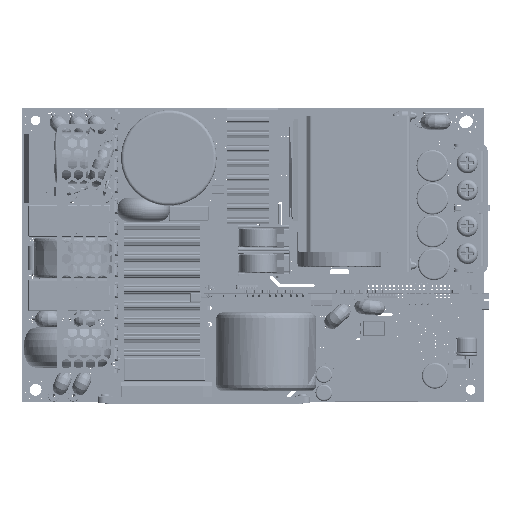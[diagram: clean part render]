
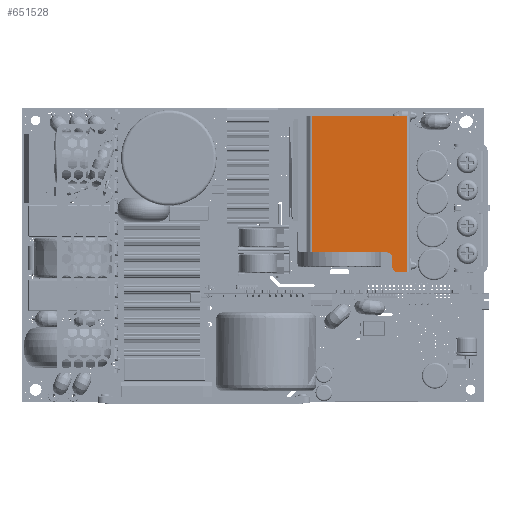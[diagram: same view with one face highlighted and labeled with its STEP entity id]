
A CAD part, top view. The second image highlights one B-rep face of the part: STEP entity #651528.
In plain terms, the highlighted planar face has unit normal (0, 0, 1).
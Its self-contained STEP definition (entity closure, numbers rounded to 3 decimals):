
#599080=DIRECTION('',(1.,0.,0.));
#599081=VECTOR('',#599080,24.886);
#599082=CARTESIAN_POINT('',(95.514,94.043,33.64));
#599083=LINE('',#599082,#599081);
#599087=DIRECTION('',(-1.,0.,0.));
#599088=VECTOR('',#599087,1.7);
#599089=CARTESIAN_POINT('',(122.1,94.043,33.64));
#599090=LINE('',#599089,#599088);
#599094=DIRECTION('',(-1.,0.,0.));
#599095=VECTOR('',#599094,4.8);
#599096=CARTESIAN_POINT('',(126.9,94.043,33.64));
#599097=LINE('',#599096,#599095);
#599101=DIRECTION('',(0.,-1.,0.));
#599102=VECTOR('',#599101,51.4);
#599103=CARTESIAN_POINT('',(126.9,94.043,33.64));
#599104=LINE('',#599103,#599102);
#599108=DIRECTION('',(-1.,0.,0.));
#599109=VECTOR('',#599108,2.8);
#599110=CARTESIAN_POINT('',(126.9,42.643,33.64));
#599111=LINE('',#599110,#599109);
#599115=CARTESIAN_POINT('',(124.1,44.643,33.64));
#599116=DIRECTION('',(0.,0.,1.));
#599117=DIRECTION('',(-1.,0.,0.));
#599118=AXIS2_PLACEMENT_3D('',#599115,#599116,#599117);
#599123=DIRECTION('',(0.,1.,0.));
#599124=VECTOR('',#599123,2.6);
#599125=CARTESIAN_POINT('',(122.1,44.643,33.64));
#599126=LINE('',#599125,#599124);
#599145=DIRECTION('',(0.,1.,0.));
#599146=VECTOR('',#599145,44.8);
#599147=CARTESIAN_POINT('',(95.514,49.243,33.64));
#599148=LINE('',#599147,#599146);
#599378=DIRECTION('',(1.,0.,0.));
#599379=VECTOR('',#599378,24.586);
#599380=CARTESIAN_POINT('',(95.514,49.243,33.64));
#599381=LINE('',#599380,#599379);
#599399=CARTESIAN_POINT('',(120.1,47.243,33.64));
#599400=DIRECTION('',(0.,0.,-1.));
#599401=DIRECTION('',(0.,1.,0.));
#599402=AXIS2_PLACEMENT_3D('',#599399,#599400,#599401);
#607636=CARTESIAN_POINT('',(126.9,42.643,33.64));
#607638=VERTEX_POINT('',#607636);
#607675=CARTESIAN_POINT('',(122.1,44.643,33.64));
#607676=CARTESIAN_POINT('',(124.1,42.643,33.64));
#607677=VERTEX_POINT('',#607675);
#607678=VERTEX_POINT('',#607676);
#607683=CARTESIAN_POINT('',(122.1,47.243,33.64));
#607684=VERTEX_POINT('',#607683);
#607687=CARTESIAN_POINT('',(120.1,49.243,33.64));
#607689=VERTEX_POINT('',#607687);
#607697=CARTESIAN_POINT('',(126.9,94.043,33.64));
#607698=CARTESIAN_POINT('',(122.1,94.043,33.64));
#607699=VERTEX_POINT('',#607697);
#607700=VERTEX_POINT('',#607698);
#607701=CARTESIAN_POINT('',(120.4,94.043,33.64));
#607702=VERTEX_POINT('',#607701);
#607753=CARTESIAN_POINT('',(95.514,94.043,33.64));
#607754=VERTEX_POINT('',#607753);
#607755=CARTESIAN_POINT('',(95.514,49.243,33.64));
#607756=VERTEX_POINT('',#607755);
#651503=CARTESIAN_POINT('',(91.1,42.143,33.64));
#651504=DIRECTION('',(0.,0.,1.));
#651505=DIRECTION('',(0.,1.,0.));
#651506=AXIS2_PLACEMENT_3D('',#651503,#651504,#651505);
#651507=PLANE('',#651506);
#651509=ORIENTED_EDGE('',*,*,#651508,.T.);
#651511=ORIENTED_EDGE('',*,*,#651510,.T.);
#651513=ORIENTED_EDGE('',*,*,#651512,.F.);
#651514=ORIENTED_EDGE('',*,*,#651486,.F.);
#651515=ORIENTED_EDGE('',*,*,#651447,.T.);
#651517=ORIENTED_EDGE('',*,*,#651516,.T.);
#651519=ORIENTED_EDGE('',*,*,#651518,.F.);
#651521=ORIENTED_EDGE('',*,*,#651520,.T.);
#651523=ORIENTED_EDGE('',*,*,#651522,.F.);
#651525=ORIENTED_EDGE('',*,*,#651524,.F.);
#651526=EDGE_LOOP('',(#651509,#651511,#651513,#651514,#651515,#651517,#651519,
#651521,#651523,#651525));
#651527=FACE_OUTER_BOUND('',#651526,.F.);
#651528=ADVANCED_FACE('',(#651527),#651507,.T.);
#599119=CIRCLE('',#599118,2.);
#599403=CIRCLE('',#599402,2.);
#651447=EDGE_CURVE('',#607699,#607638,#599104,.T.);
#651486=EDGE_CURVE('',#607699,#607700,#599097,.T.);
#651508=EDGE_CURVE('',#607756,#607754,#599148,.T.);
#651510=EDGE_CURVE('',#607754,#607702,#599083,.T.);
#651512=EDGE_CURVE('',#607700,#607702,#599090,.T.);
#651516=EDGE_CURVE('',#607638,#607678,#599111,.T.);
#651518=EDGE_CURVE('',#607677,#607678,#599119,.T.);
#651520=EDGE_CURVE('',#607677,#607684,#599126,.T.);
#651522=EDGE_CURVE('',#607689,#607684,#599403,.T.);
#651524=EDGE_CURVE('',#607756,#607689,#599381,.T.);
